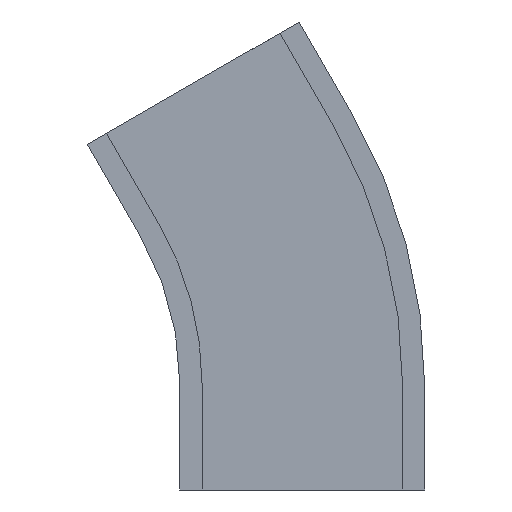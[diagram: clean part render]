
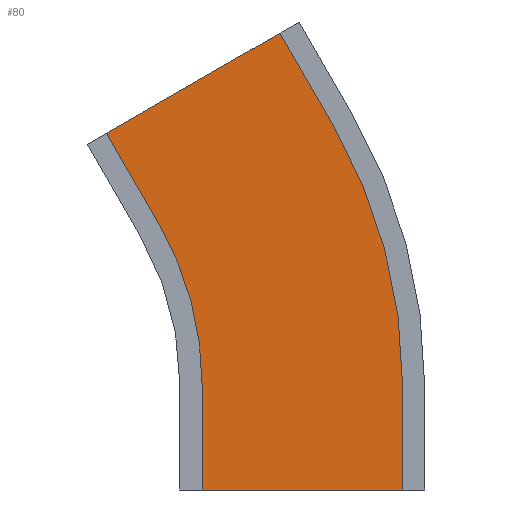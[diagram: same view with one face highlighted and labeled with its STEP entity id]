
A CAD part, front view. The second image highlights one B-rep face of the part: STEP entity #80.
In plain terms, the highlighted planar face has unit normal (0, -1, 0).
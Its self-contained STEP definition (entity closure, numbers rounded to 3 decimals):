
#80 = ADVANCED_FACE ( 'NONE', ( #843 ), #1212, .F. ) ;
#147 = ORIENTED_EDGE ( 'NONE', *, *, #389, .F. ) ;
#148 = ORIENTED_EDGE ( 'NONE', *, *, #390, .F. ) ;
#149 = ORIENTED_EDGE ( 'NONE', *, *, #391, .F. ) ;
#150 = ORIENTED_EDGE ( 'NONE', *, *, #392, .T. ) ;
#151 = ORIENTED_EDGE ( 'NONE', *, *, #386, .T. ) ;
#152 = ORIENTED_EDGE ( 'NONE', *, *, #393, .F. ) ;
#153 = ORIENTED_EDGE ( 'NONE', *, *, #394, .F. ) ;
#154 = ORIENTED_EDGE ( 'NONE', *, *, #395, .T. ) ;
#386 = EDGE_CURVE ( 'NONE', #565, #568, #984, .T. ) ;
#389 = EDGE_CURVE ( 'NONE', #571, #558, #989, .T. ) ;
#390 = EDGE_CURVE ( 'NONE', #570, #571, #986, .T. ) ;
#391 = EDGE_CURVE ( 'NONE', #572, #570, #991, .T. ) ;
#392 = EDGE_CURVE ( 'NONE', #572, #565, #994, .T. ) ;
#393 = EDGE_CURVE ( 'NONE', #569, #568, #996, .T. ) ;
#394 = EDGE_CURVE ( 'NONE', #575, #569, #992, .T. ) ;
#395 = EDGE_CURVE ( 'NONE', #575, #558, #1000, .T. ) ;
#558 = VERTEX_POINT ( 'NONE', #1540 ) ;
#565 = VERTEX_POINT ( 'NONE', #1547 ) ;
#568 = VERTEX_POINT ( 'NONE', #1550 ) ;
#569 = VERTEX_POINT ( 'NONE', #1551 ) ;
#570 = VERTEX_POINT ( 'NONE', #1552 ) ;
#571 = VERTEX_POINT ( 'NONE', #1553 ) ;
#572 = VERTEX_POINT ( 'NONE', #1554 ) ;
#575 = VERTEX_POINT ( 'NONE', #1557 ) ;
#645 = EDGE_LOOP ( 'NONE', ( #147, #148, #149, #150, #151, #152, #153, #154 ) ) ;
#788 = AXIS2_PLACEMENT_3D ( 'NONE', #1210, #1214, #1215 ) ;
#808 = AXIS2_PLACEMENT_3D ( 'NONE', #1401, #1402, #1403 ) ;
#843 = FACE_OUTER_BOUND ( 'NONE', #645, .T. ) ;
#984 = CIRCLE ( 'NONE', #808, 304.75 ) ;
#986 = LINE ( 'NONE', #1408, #993 ) ;
#989 = CIRCLE ( 'NONE', #1588, 495.25 ) ;
#991 = LINE ( 'NONE', #1406, #995 ) ;
#992 = LINE ( 'NONE', #1407, #1001 ) ;
#993 = VECTOR ( 'NONE', #1399, 1000. ) ;
#994 = LINE ( 'NONE', #1413, #997 ) ;
#995 = VECTOR ( 'NONE', #1412, 1000. ) ;
#996 = LINE ( 'NONE', #1415, #999 ) ;
#997 = VECTOR ( 'NONE', #1414, 1000. ) ;
#999 = VECTOR ( 'NONE', #1417, 1000. ) ;
#1000 = LINE ( 'NONE', #1419, #1003 ) ;
#1001 = VECTOR ( 'NONE', #1418, 1000. ) ;
#1003 = VECTOR ( 'NONE', #1420, 1000. ) ;
#1210 = CARTESIAN_POINT ( 'NONE',  ( 263.921, -68., 152.375 ) ) ;
#1212 = PLANE ( 'NONE',  #788 ) ;
#1214 = DIRECTION ( 'NONE',  ( 0., 1., 0. ) ) ;
#1215 = DIRECTION ( 'NONE',  ( -1., 0., 0. ) ) ;
#1399 = DIRECTION ( 'NONE',  ( 0.5, 0., -0.866 ) ) ;
#1401 = CARTESIAN_POINT ( 'NONE',  ( 0., -68., 0. ) ) ;
#1402 = DIRECTION ( 'NONE',  ( 0., 1., 0. ) ) ;
#1403 = DIRECTION ( 'NONE',  ( -1., 0., 0. ) ) ;
#1406 = CARTESIAN_POINT ( 'NONE',  ( -50., -68., 86.603 ) ) ;
#1407 = CARTESIAN_POINT ( 'NONE',  ( 0., -68., -100. ) ) ;
#1408 = CARTESIAN_POINT ( 'NONE',  ( 378.899, -68., 334.228 ) ) ;
#1409 = CARTESIAN_POINT ( 'NONE',  ( 0., -68., 0. ) ) ;
#1410 = DIRECTION ( 'NONE',  ( 0., 1., 0. ) ) ;
#1411 = DIRECTION ( 'NONE',  ( -1., 0., 0. ) ) ;
#1412 = DIRECTION ( 'NONE',  ( 0.866, 0., 0.5 ) ) ;
#1413 = CARTESIAN_POINT ( 'NONE',  ( 213.921, -68., 238.978 ) ) ;
#1414 = DIRECTION ( 'NONE',  ( 0.5, 0., -0.866 ) ) ;
#1415 = CARTESIAN_POINT ( 'NONE',  ( 304.75, -68., -100. ) ) ;
#1417 = DIRECTION ( 'NONE',  ( 0., 0., 1. ) ) ;
#1418 = DIRECTION ( 'NONE',  ( -1., 0., 0. ) ) ;
#1419 = CARTESIAN_POINT ( 'NONE',  ( 495.25, -68., -100. ) ) ;
#1420 = DIRECTION ( 'NONE',  ( 0., 0., 1. ) ) ;
#1540 = CARTESIAN_POINT ( 'NONE',  ( 495.25, -68., 0. ) ) ;
#1547 = CARTESIAN_POINT ( 'NONE',  ( 263.921, -68., 152.375 ) ) ;
#1550 = CARTESIAN_POINT ( 'NONE',  ( 304.75, -68., 0. ) ) ;
#1551 = CARTESIAN_POINT ( 'NONE',  ( 304.75, -68., -100. ) ) ;
#1552 = CARTESIAN_POINT ( 'NONE',  ( 378.899, -68., 334.228 ) ) ;
#1553 = CARTESIAN_POINT ( 'NONE',  ( 428.899, -68., 247.625 ) ) ;
#1554 = CARTESIAN_POINT ( 'NONE',  ( 213.921, -68., 238.978 ) ) ;
#1557 = CARTESIAN_POINT ( 'NONE',  ( 495.25, -68., -100. ) ) ;
#1588 = AXIS2_PLACEMENT_3D ( 'NONE', #1409, #1410, #1411 ) ;
